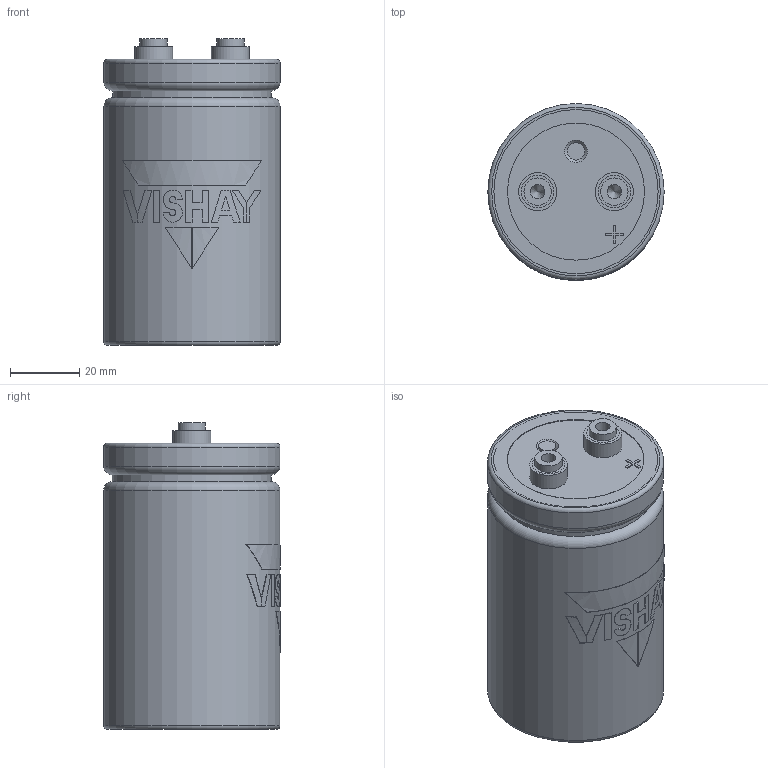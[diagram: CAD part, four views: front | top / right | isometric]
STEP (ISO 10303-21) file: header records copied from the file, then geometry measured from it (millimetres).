
FILE_DESCRIPTION(('FreeCAD Model'),'2;1');
FILE_NAME('C:/Users/tvandesteeg/Documents/Documents/FreeCAD/Stepfiles/ST capacitors/ST_HP_M5_50x80.step','2020-07-02T17:43:43',('Author'),(''), 'Open CASCADE STEP processor 7.3','FreeCAD','Unknown');
FILE_SCHEMA(('AUTOMOTIVE_DESIGN { 1 0 10303 214 1 1 1 1 }'));
Length unit declared in the file: millimetre
Products named in the file (7): VentBody; TerminalBody_(Mirror_#2); TerminalBody; Disc; LogoPrint; CanBody; BottomBody
Bounding box: 51 x 51.1 x 88.8 mm (x, y, z)
Volume: 166882.5 mm3; surface area: 30626.5 mm2
Topology: 17 solids, 17 shells, 149 faces, 313 edges, 206 vertices
Faces by surface type: plane 93, cylinder 48, torus 5, cone 3
Full cylindrical faces by diameter (mm): 4.2 x2, 5 x2, 7.9 x2, 9.45 x6, 11 x2, 39.667 x3, 46 x1, 46.6 x2, 51 x2
Entity records: 10569 total; most frequent: CARTESIAN_POINT 3273, DIRECTION 1204, ORIENTED_EDGE 622, PCURVE 622, DEFINITIONAL_REPRESENTATION 622, LINE 532, VECTOR 532, EDGE_CURVE 311
